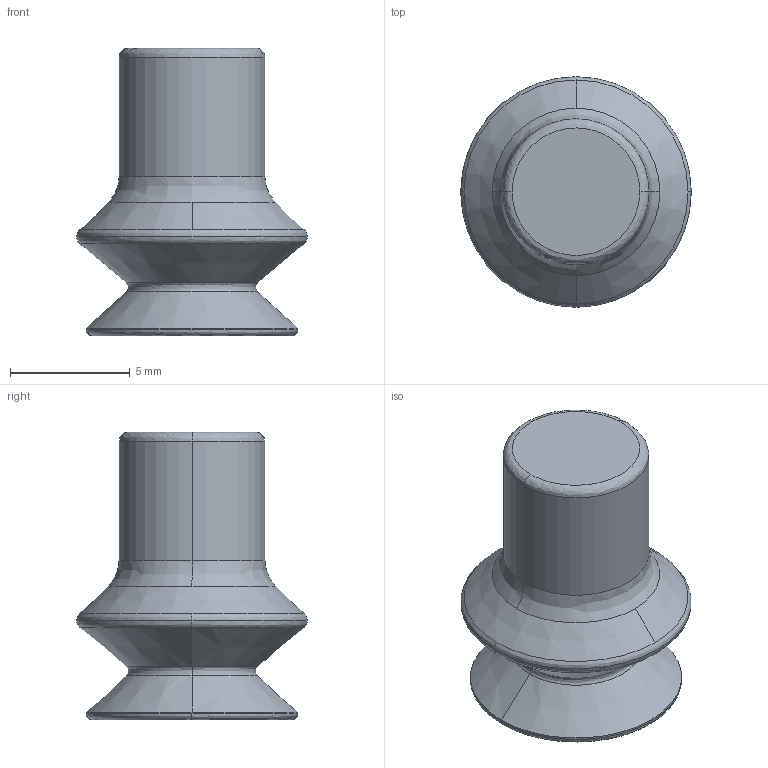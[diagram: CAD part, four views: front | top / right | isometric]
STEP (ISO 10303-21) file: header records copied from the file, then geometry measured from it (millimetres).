
FILE_DESCRIPTION (( 'STEP AP214' ), '1' );
FILE_NAME ('XP-B8.STEP', '2013-10-23T13:07:22', ( 'user' ), ( '' ), 'SwSTEP 2.0', 'SolidWorks 2009', '' );
FILE_SCHEMA (( 'AUTOMOTIVE_DESIGN' ));
Length unit declared in the file: millimetre
Products named in the file (1): XP-B8
Bounding box: 9.64 x 9.64 x 12.04 mm (x, y, z)
Volume: 456.6 mm3; surface area: 400.1 mm2
Topology: 1 solids, 1 shells, 24 faces, 50 edges, 28 vertices
Faces by surface type: bspline 12, cone 6, cylinder 4, plane 2
Entity records: 797 total; most frequent: CARTESIAN_POINT 295, DIRECTION 108, ORIENTED_EDGE 100, EDGE_CURVE 50, AXIS2_PLACEMENT_3D 49, CIRCLE 36, VERTEX_POINT 28, FACE_OUTER_BOUND 24
